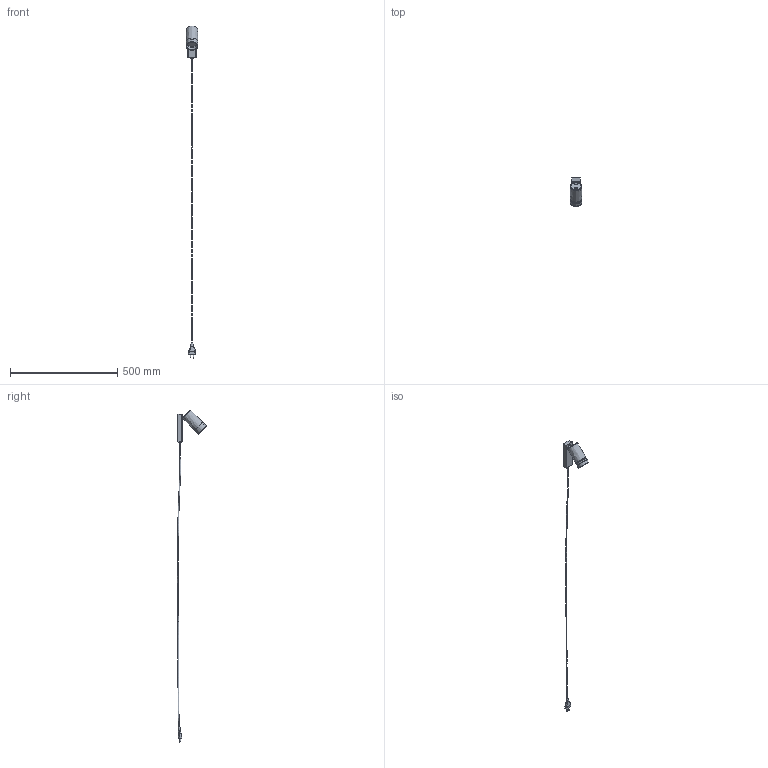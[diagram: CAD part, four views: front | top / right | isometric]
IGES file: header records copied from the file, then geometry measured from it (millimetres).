
Start section: SolidWorks IGES file using NURBS representation for surfaces
Global section: file name: Z:\Modele 3D_WWW\_KOLEKCJE_WWW\MONO\MONO-BELKA\7773\MONO-I-KINKIET-PRZEWÓD-GOLD-7773.IGS; native system: SolidWorks 2021; preprocessor: SolidWorks 2021; author: gabriela.tworek; date: 220121.140427; units: millimetre
Bounding box: 55 x 135.87 x 1551.33 mm (x, y, z)
Surface area: 99074 mm2 (no closed solid volume)
Topology: 0 solids, 0 shells, 127 faces, 638 edges, 620 vertices
Faces by surface type: bspline 127
